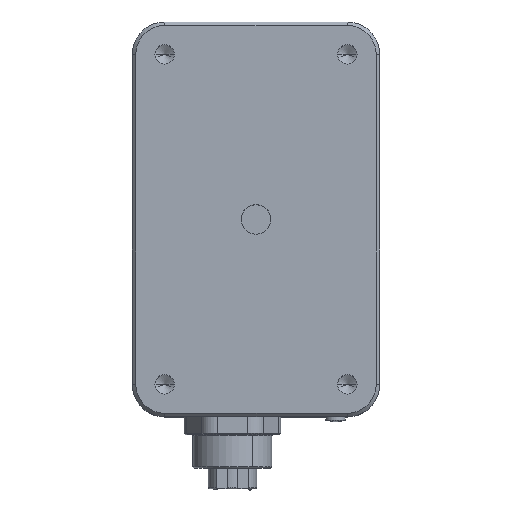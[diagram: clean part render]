
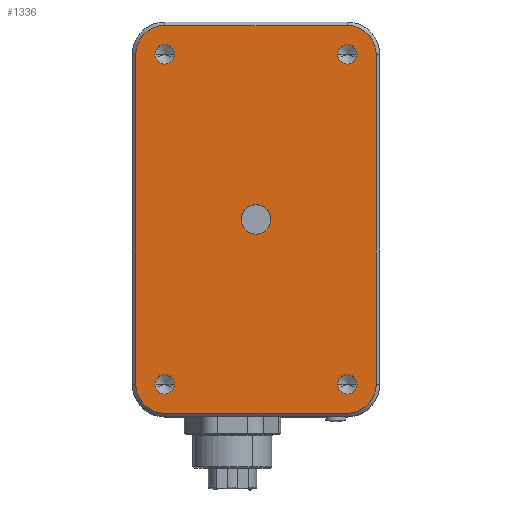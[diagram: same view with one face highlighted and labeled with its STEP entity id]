
A CAD part, top view. The second image highlights one B-rep face of the part: STEP entity #1336.
In plain terms, the highlighted planar face has unit normal (0, 0, 1).
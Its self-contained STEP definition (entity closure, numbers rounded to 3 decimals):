
#251=CARTESIAN_POINT('',(15.5,28.,19.6));
#252=DIRECTION('',(0.,0.,1.));
#253=DIRECTION('',(-1.,0.,0.));
#254=AXIS2_PLACEMENT_3D('',#251,#252,#253);
#256=CARTESIAN_POINT('',(15.5,28.,19.6));
#257=DIRECTION('',(0.,0.,1.));
#258=DIRECTION('',(1.,0.,0.));
#259=AXIS2_PLACEMENT_3D('',#256,#257,#258);
#261=CARTESIAN_POINT('',(-15.5,-28.,19.6));
#262=DIRECTION('',(0.,0.,1.));
#263=DIRECTION('',(-1.,0.,0.));
#264=AXIS2_PLACEMENT_3D('',#261,#262,#263);
#266=DIRECTION('',(0.,-1.,0.));
#267=VECTOR('',#266,56.);
#268=CARTESIAN_POINT('',(-20.4,28.,19.6));
#269=LINE('',#268,#267);
#270=CARTESIAN_POINT('',(-15.5,28.,19.6));
#271=DIRECTION('',(0.,0.,1.));
#272=DIRECTION('',(0.,1.,0.));
#273=AXIS2_PLACEMENT_3D('',#270,#271,#272);
#275=DIRECTION('',(-1.,0.,0.));
#276=VECTOR('',#275,31.);
#277=CARTESIAN_POINT('',(15.5,32.9,19.6));
#278=LINE('',#277,#276);
#279=CARTESIAN_POINT('',(15.5,28.,19.6));
#280=DIRECTION('',(0.,0.,1.));
#281=DIRECTION('',(1.,0.,0.));
#282=AXIS2_PLACEMENT_3D('',#279,#280,#281);
#284=DIRECTION('',(0.,1.,0.));
#285=VECTOR('',#284,56.);
#286=CARTESIAN_POINT('',(20.4,-28.,19.6));
#287=LINE('',#286,#285);
#288=CARTESIAN_POINT('',(15.5,-28.,19.6));
#289=DIRECTION('',(0.,0.,1.));
#290=DIRECTION('',(0.,-1.,0.));
#291=AXIS2_PLACEMENT_3D('',#288,#289,#290);
#293=DIRECTION('',(1.,0.,0.));
#294=VECTOR('',#293,31.);
#295=CARTESIAN_POINT('',(-15.5,-32.9,19.6));
#296=LINE('',#295,#294);
#297=CARTESIAN_POINT('',(-15.5,28.,19.6));
#298=DIRECTION('',(0.,0.,1.));
#299=DIRECTION('',(-1.,0.,0.));
#300=AXIS2_PLACEMENT_3D('',#297,#298,#299);
#302=CARTESIAN_POINT('',(-15.5,28.,19.6));
#303=DIRECTION('',(0.,0.,1.));
#304=DIRECTION('',(1.,0.,0.));
#305=AXIS2_PLACEMENT_3D('',#302,#303,#304);
#307=CARTESIAN_POINT('',(-15.5,-28.,19.6));
#308=DIRECTION('',(0.,0.,1.));
#309=DIRECTION('',(-1.,0.,0.));
#310=AXIS2_PLACEMENT_3D('',#307,#308,#309);
#312=CARTESIAN_POINT('',(-15.5,-28.,19.6));
#313=DIRECTION('',(0.,0.,1.));
#314=DIRECTION('',(1.,0.,0.));
#315=AXIS2_PLACEMENT_3D('',#312,#313,#314);
#317=CARTESIAN_POINT('',(15.5,-28.,19.6));
#318=DIRECTION('',(0.,0.,1.));
#319=DIRECTION('',(-1.,0.,0.));
#320=AXIS2_PLACEMENT_3D('',#317,#318,#319);
#322=CARTESIAN_POINT('',(15.5,-28.,19.6));
#323=DIRECTION('',(0.,0.,1.));
#324=DIRECTION('',(1.,0.,0.));
#325=AXIS2_PLACEMENT_3D('',#322,#323,#324);
#327=CARTESIAN_POINT('',(0.,0.,19.6));
#328=DIRECTION('',(0.,0.,1.));
#329=DIRECTION('',(-1.,0.,0.));
#330=AXIS2_PLACEMENT_3D('',#327,#328,#329);
#332=CARTESIAN_POINT('',(0.,0.,19.6));
#333=DIRECTION('',(0.,0.,1.));
#334=DIRECTION('',(1.,0.,0.));
#335=AXIS2_PLACEMENT_3D('',#332,#333,#334);
#769=CARTESIAN_POINT('',(-20.4,-28.,19.6));
#770=CARTESIAN_POINT('',(-15.5,-32.9,19.6));
#771=VERTEX_POINT('',#769);
#772=VERTEX_POINT('',#770);
#777=CARTESIAN_POINT('',(15.5,-32.9,19.6));
#778=VERTEX_POINT('',#777);
#781=CARTESIAN_POINT('',(20.4,-28.,19.6));
#782=VERTEX_POINT('',#781);
#785=CARTESIAN_POINT('',(20.4,28.,19.6));
#786=VERTEX_POINT('',#785);
#789=CARTESIAN_POINT('',(15.5,32.9,19.6));
#790=VERTEX_POINT('',#789);
#793=CARTESIAN_POINT('',(-15.5,32.9,19.6));
#794=VERTEX_POINT('',#793);
#797=CARTESIAN_POINT('',(-20.4,28.,19.6));
#798=VERTEX_POINT('',#797);
#807=CARTESIAN_POINT('',(-17.15,28.,19.6));
#808=CARTESIAN_POINT('',(-13.85,28.,19.6));
#809=VERTEX_POINT('',#807);
#810=VERTEX_POINT('',#808);
#817=CARTESIAN_POINT('',(-17.15,-28.,19.6));
#818=VERTEX_POINT('',#817);
#819=CARTESIAN_POINT('',(-13.85,-28.,19.6));
#820=VERTEX_POINT('',#819);
#827=CARTESIAN_POINT('',(13.85,-28.,19.6));
#828=VERTEX_POINT('',#827);
#829=CARTESIAN_POINT('',(17.15,-28.,19.6));
#830=VERTEX_POINT('',#829);
#837=CARTESIAN_POINT('',(13.85,28.,19.6));
#838=VERTEX_POINT('',#837);
#839=CARTESIAN_POINT('',(17.15,28.,19.6));
#840=VERTEX_POINT('',#839);
#945=CARTESIAN_POINT('',(-2.5,0.,19.6));
#946=CARTESIAN_POINT('',(2.5,0.,19.6));
#947=VERTEX_POINT('',#945);
#948=VERTEX_POINT('',#946);
#1284=CARTESIAN_POINT('',(0.,0.,19.6));
#1285=DIRECTION('',(0.,0.,1.));
#1286=DIRECTION('',(1.,0.,0.));
#1287=AXIS2_PLACEMENT_3D('',#1284,#1285,#1286);
#1288=PLANE('',#1287);
#1290=ORIENTED_EDGE('',*,*,#1289,.F.);
#1292=ORIENTED_EDGE('',*,*,#1291,.F.);
#1294=ORIENTED_EDGE('',*,*,#1293,.F.);
#1296=ORIENTED_EDGE('',*,*,#1295,.F.);
#1297=ORIENTED_EDGE('',*,*,#1274,.F.);
#1299=ORIENTED_EDGE('',*,*,#1298,.F.);
#1301=ORIENTED_EDGE('',*,*,#1300,.F.);
#1303=ORIENTED_EDGE('',*,*,#1302,.F.);
#1304=EDGE_LOOP('',(#1290,#1292,#1294,#1296,#1297,#1299,#1301,#1303));
#1305=FACE_OUTER_BOUND('',#1304,.F.);
#1307=ORIENTED_EDGE('',*,*,#1306,.T.);
#1309=ORIENTED_EDGE('',*,*,#1308,.T.);
#1310=EDGE_LOOP('',(#1307,#1309));
#1311=FACE_BOUND('',#1310,.F.);
#1313=ORIENTED_EDGE('',*,*,#1312,.T.);
#1315=ORIENTED_EDGE('',*,*,#1314,.T.);
#1316=EDGE_LOOP('',(#1313,#1315));
#1317=FACE_BOUND('',#1316,.F.);
#1319=ORIENTED_EDGE('',*,*,#1318,.T.);
#1321=ORIENTED_EDGE('',*,*,#1320,.T.);
#1322=EDGE_LOOP('',(#1319,#1321));
#1323=FACE_BOUND('',#1322,.F.);
#1325=ORIENTED_EDGE('',*,*,#1324,.T.);
#1327=ORIENTED_EDGE('',*,*,#1326,.T.);
#1328=EDGE_LOOP('',(#1325,#1327));
#1329=FACE_BOUND('',#1328,.F.);
#1331=ORIENTED_EDGE('',*,*,#1330,.T.);
#1333=ORIENTED_EDGE('',*,*,#1332,.T.);
#1334=EDGE_LOOP('',(#1331,#1333));
#1335=FACE_BOUND('',#1334,.F.);
#255=CIRCLE('',#254,1.65);
#260=CIRCLE('',#259,1.65);
#265=CIRCLE('',#264,4.9);
#274=CIRCLE('',#273,4.9);
#283=CIRCLE('',#282,4.9);
#292=CIRCLE('',#291,4.9);
#301=CIRCLE('',#300,1.65);
#306=CIRCLE('',#305,1.65);
#311=CIRCLE('',#310,1.65);
#316=CIRCLE('',#315,1.65);
#321=CIRCLE('',#320,1.65);
#326=CIRCLE('',#325,1.65);
#331=CIRCLE('',#330,2.5);
#336=CIRCLE('',#335,2.5);
#1274=EDGE_CURVE('',#786,#790,#283,.T.);
#1289=EDGE_CURVE('',#771,#772,#265,.T.);
#1291=EDGE_CURVE('',#798,#771,#269,.T.);
#1293=EDGE_CURVE('',#794,#798,#274,.T.);
#1295=EDGE_CURVE('',#790,#794,#278,.T.);
#1298=EDGE_CURVE('',#782,#786,#287,.T.);
#1300=EDGE_CURVE('',#778,#782,#292,.T.);
#1302=EDGE_CURVE('',#772,#778,#296,.T.);
#1306=EDGE_CURVE('',#838,#840,#255,.T.);
#1308=EDGE_CURVE('',#840,#838,#260,.T.);
#1312=EDGE_CURVE('',#809,#810,#301,.T.);
#1314=EDGE_CURVE('',#810,#809,#306,.T.);
#1318=EDGE_CURVE('',#818,#820,#311,.T.);
#1320=EDGE_CURVE('',#820,#818,#316,.T.);
#1324=EDGE_CURVE('',#828,#830,#321,.T.);
#1326=EDGE_CURVE('',#830,#828,#326,.T.);
#1330=EDGE_CURVE('',#947,#948,#331,.T.);
#1332=EDGE_CURVE('',#948,#947,#336,.T.);
#1336=ADVANCED_FACE('',(#1305,#1311,#1317,#1323,#1329,#1335),#1288,.T.);
